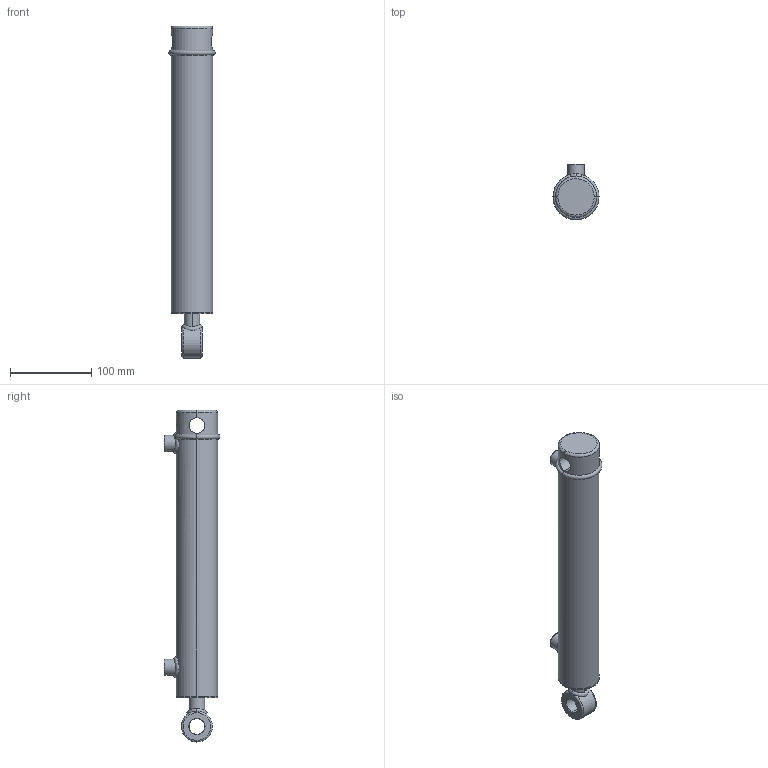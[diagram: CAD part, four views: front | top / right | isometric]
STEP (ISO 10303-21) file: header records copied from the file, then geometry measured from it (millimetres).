
FILE_DESCRIPTION (( 'STEP AP203' ), '1' );
FILE_NAME ('SB-C150075X254 (10).STEP', '2014-12-18T20:05:46', ( '' ), ( '' ), 'SwSTEP 2.0', 'SolidWorks 2015', '' );
FILE_SCHEMA (( 'CONFIG_CONTROL_DESIGN' ));
Length unit declared in the file: millimetre
Products named in the file (3): BODY_10; SPARE_10; SB-C150075X254 (10)
Assembly tree (2 placements, depth 2):
  SB-C150075X254 (10)
    BODY_10
    SPARE_10
Bounding box: 56.7 x 68.75 x 408 mm (x, y, z)
Volume: 785233.3 mm3; surface area: 98377.7 mm2
Topology: 2 solids, 2 shells, 90 faces, 211 edges, 127 vertices
Faces by surface type: cylinder 32, torus 20, bspline 17, plane 13, cone 8
Entity records: 8172 total; most frequent: CARTESIAN_POINT 5968, ORIENTED_EDGE 414, DIRECTION 380, EDGE_CURVE 207, AXIS2_PLACEMENT_3D 169, VERTEX_POINT 127, EDGE_LOOP 104, CIRCLE 91
